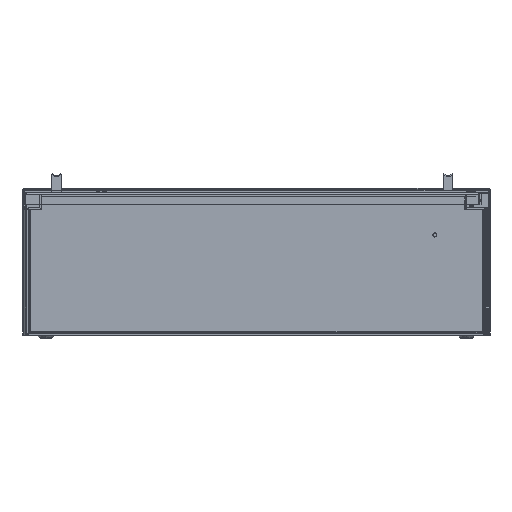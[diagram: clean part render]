
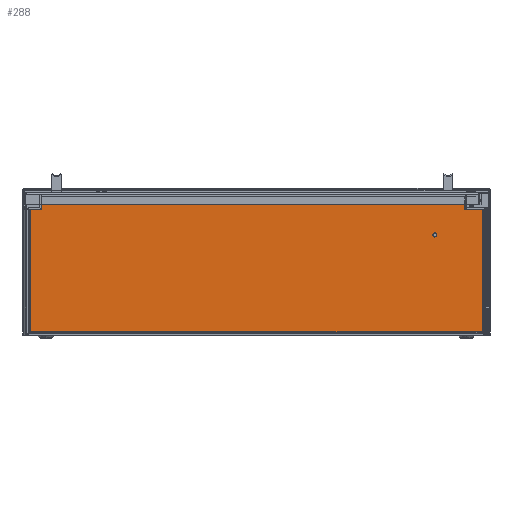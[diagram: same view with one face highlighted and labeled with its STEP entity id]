
A CAD part, front view. The second image highlights one B-rep face of the part: STEP entity #288.
In plain terms, the highlighted planar face has unit normal (0, -1, 0) as drawn and (0, 0, -1) by its records, which use the part's own axes.
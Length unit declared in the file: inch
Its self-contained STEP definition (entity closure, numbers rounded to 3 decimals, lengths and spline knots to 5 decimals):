
#288 = ADVANCED_FACE ( 'NONE', ( #10115, #10134 ), #4902, .T. ) ;
#2756 = EDGE_LOOP ( 'NONE', ( #3864, #3865 ) ) ;
#2759 = EDGE_LOOP ( 'NONE', ( #3866, #3867, #3868, #3869, #3870, #3871, #3872, #3873 ) ) ;
#3864 = ORIENTED_EDGE ( 'NONE', *, *, #16748, .F. ) ;
#3865 = ORIENTED_EDGE ( 'NONE', *, *, #16592, .F. ) ;
#3866 = ORIENTED_EDGE ( 'NONE', *, *, #17192, .F. ) ;
#3867 = ORIENTED_EDGE ( 'NONE', *, *, #17118, .T. ) ;
#3868 = ORIENTED_EDGE ( 'NONE', *, *, #16770, .F. ) ;
#3869 = ORIENTED_EDGE ( 'NONE', *, *, #16764, .F. ) ;
#3870 = ORIENTED_EDGE ( 'NONE', *, *, #16724, .T. ) ;
#3871 = ORIENTED_EDGE ( 'NONE', *, *, #16585, .T. ) ;
#3872 = ORIENTED_EDGE ( 'NONE', *, *, #16603, .T. ) ;
#3873 = ORIENTED_EDGE ( 'NONE', *, *, #16707, .F. ) ;
#4901 = CARTESIAN_POINT ( 'NONE',  ( 16.363, -9.75, -0.072 ) ) ;
#4902 = PLANE ( 'NONE',  #11746 ) ;
#4904 = DIRECTION ( 'NONE',  ( 0., 0., -1. ) ) ;
#4905 = DIRECTION ( 'NONE',  ( -1., 0., 0. ) ) ;
#7434 = CARTESIAN_POINT ( 'NONE',  ( 13.8785, -7.75, -0.072 ) ) ;
#7444 = CARTESIAN_POINT ( 'NONE',  ( 14.1275, -7.75, -0.072 ) ) ;
#7448 = CARTESIAN_POINT ( 'NONE',  ( 16.363, -9.75, -0.072 ) ) ;
#7463 = CARTESIAN_POINT ( 'NONE',  ( 16.363, -10.748, -0.072 ) ) ;
#7495 = CARTESIAN_POINT ( 'NONE',  ( -17.726, -0.152, -0.072 ) ) ;
#7496 = CARTESIAN_POINT ( 'NONE',  ( 17.726, -0.152, -0.072 ) ) ;
#7503 = CARTESIAN_POINT ( 'NONE',  ( -17.726, -9.75, -0.072 ) ) ;
#7515 = CARTESIAN_POINT ( 'NONE',  ( -16.863, -10.748, -0.072 ) ) ;
#7524 = CARTESIAN_POINT ( 'NONE',  ( 17.726, -9.75, -0.072 ) ) ;
#7526 = CARTESIAN_POINT ( 'NONE',  ( -16.863, -9.75, -0.072 ) ) ;
#8654 = CARTESIAN_POINT ( 'NONE',  ( 16.363, -10.9, -0.072 ) ) ;
#8655 = DIRECTION ( 'NONE',  ( 0., 1., 0. ) ) ;
#10115 = FACE_BOUND ( 'NONE', #2756, .T. ) ;
#10134 = FACE_OUTER_BOUND ( 'NONE', #2759, .T. ) ;
#11746 = AXIS2_PLACEMENT_3D ( 'NONE', #4901, #4904, #4905 ) ;
#12277 = CARTESIAN_POINT ( 'NONE',  ( 16.363, -10.748, -0.072 ) ) ;
#12278 = DIRECTION ( 'NONE',  ( -1., 0., 0. ) ) ;
#13097 = AXIS2_PLACEMENT_3D ( 'NONE', #22487, #22551, #22552 ) ;
#13165 = AXIS2_PLACEMENT_3D ( 'NONE', #25974, #25975, #25976 ) ;
#14968 = CARTESIAN_POINT ( 'NONE',  ( 16.363, -9.75, -0.072 ) ) ;
#15000 = DIRECTION ( 'NONE',  ( 1., 0., 0. ) ) ;
#15065 = CARTESIAN_POINT ( 'NONE',  ( -17.726, -9.75, -0.072 ) ) ;
#15078 = DIRECTION ( 'NONE',  ( 0., 1., 0. ) ) ;
#16585 = EDGE_CURVE ( 'NONE', #17745, #17747, #17621, .T. ) ;
#16592 = EDGE_CURVE ( 'NONE', #17648, #17665, #17657, .T. ) ;
#16603 = EDGE_CURVE ( 'NONE', #17747, #17795, #17690, .T. ) ;
#16707 = EDGE_CURVE ( 'NONE', #17671, #17795, #18050, .T. ) ;
#16724 = EDGE_CURVE ( 'NONE', #17759, #17745, #18098, .T. ) ;
#16748 = EDGE_CURVE ( 'NONE', #17665, #17648, #18138, .T. ) ;
#16764 = EDGE_CURVE ( 'NONE', #17759, #17798, #18160, .T. ) ;
#16770 = EDGE_CURVE ( 'NONE', #17798, #17780, #18147, .T. ) ;
#17118 = EDGE_CURVE ( 'NONE', #17695, #17780, #18739, .T. ) ;
#17192 = EDGE_CURVE ( 'NONE', #17695, #17671, #19026, .T. ) ;
#17608 = VECTOR ( 'NONE', #22482, 39.37008 ) ;
#17621 = LINE ( 'NONE', #22481, #17608 ) ;
#17648 = VERTEX_POINT ( 'NONE', #7434 ) ;
#17657 = CIRCLE ( 'NONE', #13097, 0.1245 ) ;
#17665 = VERTEX_POINT ( 'NONE', #7444 ) ;
#17671 = VERTEX_POINT ( 'NONE', #7448 ) ;
#17690 = LINE ( 'NONE', #22557, #17694 ) ;
#17694 = VECTOR ( 'NONE', #22581, 39.37008 ) ;
#17695 = VERTEX_POINT ( 'NONE', #7463 ) ;
#17745 = VERTEX_POINT ( 'NONE', #7495 ) ;
#17747 = VERTEX_POINT ( 'NONE', #7496 ) ;
#17759 = VERTEX_POINT ( 'NONE', #7503 ) ;
#17780 = VERTEX_POINT ( 'NONE', #7515 ) ;
#17795 = VERTEX_POINT ( 'NONE', #7524 ) ;
#17798 = VERTEX_POINT ( 'NONE', #7526 ) ;
#18029 = VECTOR ( 'NONE', #15000, 39.37008 ) ;
#18050 = LINE ( 'NONE', #14968, #18029 ) ;
#18096 = VECTOR ( 'NONE', #15078, 39.37008 ) ;
#18098 = LINE ( 'NONE', #15065, #18096 ) ;
#18138 = CIRCLE ( 'NONE', #13165, 0.1245 ) ;
#18147 = LINE ( 'NONE', #26037, #18168 ) ;
#18160 = LINE ( 'NONE', #26016, #18161 ) ;
#18161 = VECTOR ( 'NONE', #26017, 39.37008 ) ;
#18168 = VECTOR ( 'NONE', #26038, 39.37008 ) ;
#18739 = LINE ( 'NONE', #12277, #18741 ) ;
#18741 = VECTOR ( 'NONE', #12278, 39.37008 ) ;
#19026 = LINE ( 'NONE', #8654, #19029 ) ;
#19029 = VECTOR ( 'NONE', #8655, 39.37008 ) ;
#22481 = CARTESIAN_POINT ( 'NONE',  ( -17.78125, -0.152, -0.072 ) ) ;
#22482 = DIRECTION ( 'NONE',  ( 1., 0., 0. ) ) ;
#22487 = CARTESIAN_POINT ( 'NONE',  ( 14.003, -7.75, -0.072 ) ) ;
#22551 = DIRECTION ( 'NONE',  ( 0., 0., -1. ) ) ;
#22552 = DIRECTION ( 'NONE',  ( -1., 0., 0. ) ) ;
#22557 = CARTESIAN_POINT ( 'NONE',  ( 17.726, -0.09675, -0.072 ) ) ;
#22581 = DIRECTION ( 'NONE',  ( 0., -1., 0. ) ) ;
#25974 = CARTESIAN_POINT ( 'NONE',  ( 14.003, -7.75, -0.072 ) ) ;
#25975 = DIRECTION ( 'NONE',  ( 0., 0., -1. ) ) ;
#25976 = DIRECTION ( 'NONE',  ( -1., 0., 0. ) ) ;
#26016 = CARTESIAN_POINT ( 'NONE',  ( -17.878, -9.75, -0.072 ) ) ;
#26017 = DIRECTION ( 'NONE',  ( 1., 0., 0. ) ) ;
#26037 = CARTESIAN_POINT ( 'NONE',  ( -16.863, -9.75, -0.072 ) ) ;
#26038 = DIRECTION ( 'NONE',  ( 0., -1., 0. ) ) ;
